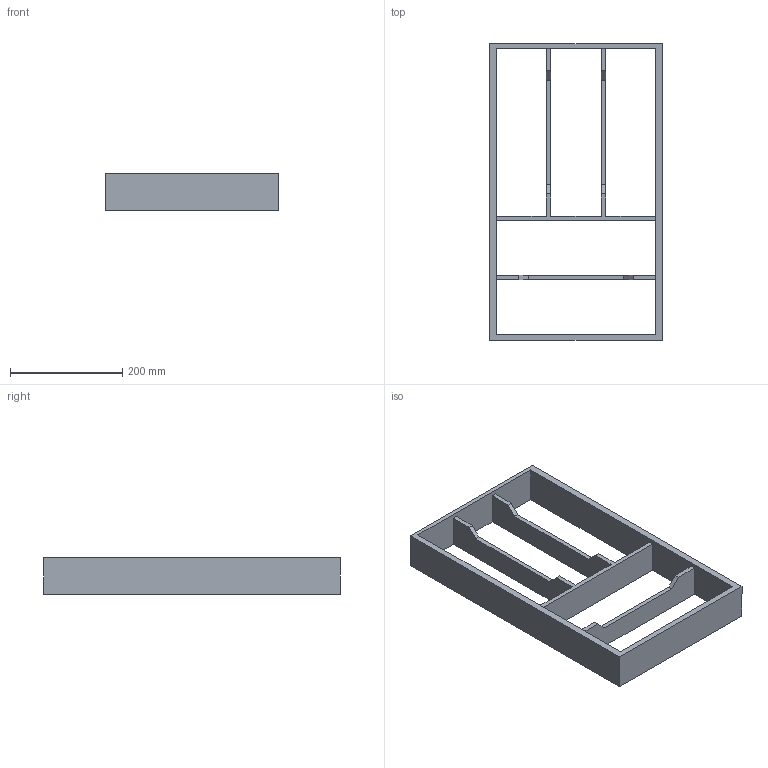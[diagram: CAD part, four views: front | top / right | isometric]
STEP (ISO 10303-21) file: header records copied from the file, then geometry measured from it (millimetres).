
FILE_DESCRIPTION (( 'STEP AP214' ), '1' );
FILE_NAME ('Vario Besteck fix NL550_B400_16mm_Buche.step', '2010-11-08T07:33:21', ( 'grass' ), ( '' ), 'SwSTEP 2.0', 'SolidWorks 2010', '' );
FILE_SCHEMA (( 'AUTOMOTIVE_DESIGN' ));
Length unit declared in the file: millimetre
Products named in the file (1): Vario Besteck fix NL550_B400_16mm_Buche
Bounding box: 308 x 529 x 65 mm (x, y, z)
Volume: 1627940 mm3; surface area: 376582 mm2
Topology: 1 solids, 1 shells, 34 faces, 108 edges, 72 vertices
Faces by surface type: plane 34
Entity records: 1226 total; most frequent: ORIENTED_EDGE 216, CARTESIAN_POINT 215, DIRECTION 178, LINE 108, VECTOR 108, EDGE_CURVE 108, VERTEX_POINT 72, EDGE_LOOP 40
